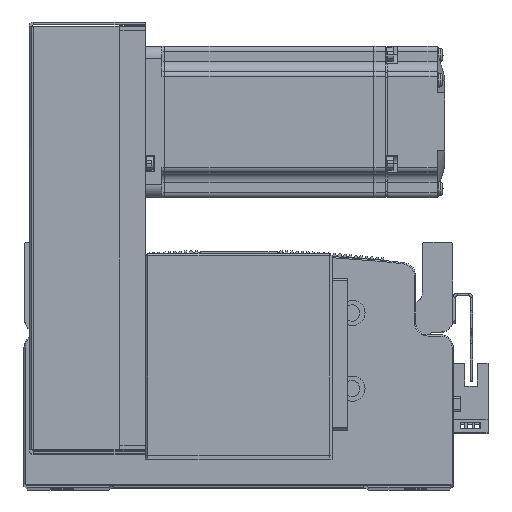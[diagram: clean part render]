
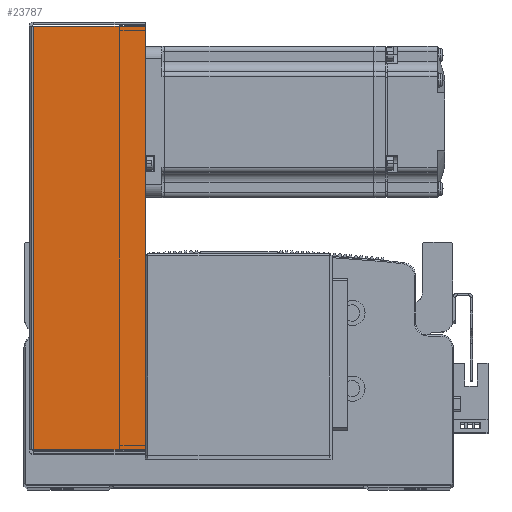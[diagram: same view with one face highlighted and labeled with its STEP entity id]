
A CAD part, top view. The second image highlights one B-rep face of the part: STEP entity #23787.
In plain terms, the highlighted planar face has unit normal (0, 0, 1) as drawn and (0, 0, -1) by its records, which use the part's own axes.
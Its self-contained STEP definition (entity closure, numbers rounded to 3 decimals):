
#1768 = ORIENTED_EDGE ( 'NONE', *, *, #46065, .F. ) ;
#1785 = ORIENTED_EDGE ( 'NONE', *, *, #46074, .F. ) ;
#1805 = ORIENTED_EDGE ( 'NONE', *, *, #46173, .T. ) ;
#1893 = ORIENTED_EDGE ( 'NONE', *, *, #46151, .T. ) ;
#10435 = CARTESIAN_POINT ( 'NONE',  ( -83.793, 45., -40.5 ) ) ;
#10453 = CARTESIAN_POINT ( 'NONE',  ( -83.793, 0.737, -40.5 ) ) ;
#10456 = CARTESIAN_POINT ( 'NONE',  ( 83.793, 0.737, -40.5 ) ) ;
#10504 = CARTESIAN_POINT ( 'NONE',  ( 83.793, 45., -40.5 ) ) ;
#12142 = PLANE ( 'NONE',  #27194 ) ;
#12163 = DIRECTION ( 'NONE',  ( 0., 0., 1. ) ) ;
#12189 = CARTESIAN_POINT ( 'NONE',  ( 0., 0., -40.5 ) ) ;
#12191 = DIRECTION ( 'NONE',  ( 0., -1., 0. ) ) ;
#23787 = ADVANCED_FACE ( 'NONE', ( #25222 ), #12142, .F. ) ;
#25222 = FACE_OUTER_BOUND ( 'NONE', #45420, .T. ) ;
#27194 = AXIS2_PLACEMENT_3D ( 'NONE', #12189, #12163, #12191 ) ;
#45420 = EDGE_LOOP ( 'NONE', ( #1785, #1805, #1893, #1768 ) ) ;
#46065 = EDGE_CURVE ( 'NONE', #76151, #76226, #47194, .T. ) ;
#46074 = EDGE_CURVE ( 'NONE', #76146, #76151, #47162, .T. ) ;
#46151 = EDGE_CURVE ( 'NONE', #76159, #76226, #47399, .T. ) ;
#46173 = EDGE_CURVE ( 'NONE', #76146, #76159, #47543, .T. ) ;
#47159 = VECTOR ( 'NONE', #49462, 1000. ) ;
#47162 = LINE ( 'NONE', #49456, #47159 ) ;
#47176 = VECTOR ( 'NONE', #49455, 1000. ) ;
#47194 = LINE ( 'NONE', #49429, #47176 ) ;
#47399 = LINE ( 'NONE', #49678, #47446 ) ;
#47446 = VECTOR ( 'NONE', #49729, 1000. ) ;
#47543 = LINE ( 'NONE', #49781, #47620 ) ;
#47620 = VECTOR ( 'NONE', #49786, 1000. ) ;
#49429 = CARTESIAN_POINT ( 'NONE',  ( 83.793, 0., -40.5 ) ) ;
#49455 = DIRECTION ( 'NONE',  ( 0., 1., 0. ) ) ;
#49456 = CARTESIAN_POINT ( 'NONE',  ( 0., 0.737, -40.5 ) ) ;
#49462 = DIRECTION ( 'NONE',  ( 1., 0., 0. ) ) ;
#49678 = CARTESIAN_POINT ( 'NONE',  ( 84.5, 45., -40.5 ) ) ;
#49729 = DIRECTION ( 'NONE',  ( 1., 0., 0. ) ) ;
#49781 = CARTESIAN_POINT ( 'NONE',  ( -83.793, 0., -40.5 ) ) ;
#49786 = DIRECTION ( 'NONE',  ( 0., 1., 0. ) ) ;
#76146 = VERTEX_POINT ( 'NONE', #10453 ) ;
#76151 = VERTEX_POINT ( 'NONE', #10456 ) ;
#76159 = VERTEX_POINT ( 'NONE', #10435 ) ;
#76226 = VERTEX_POINT ( 'NONE', #10504 ) ;
